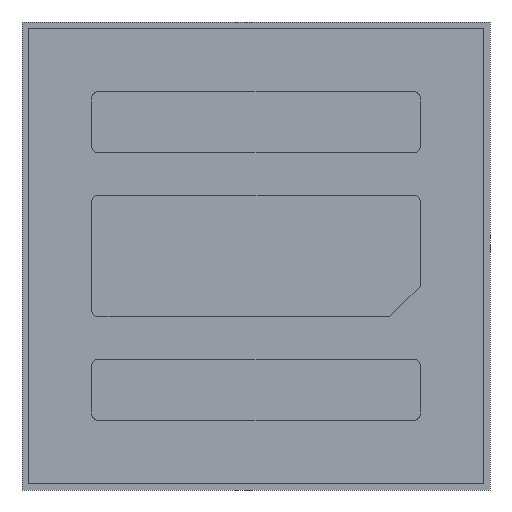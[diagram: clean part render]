
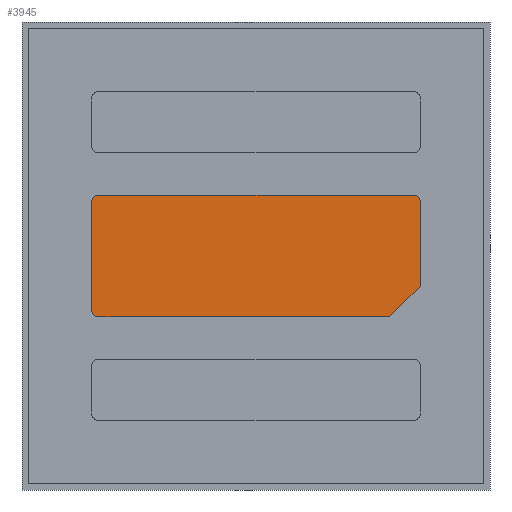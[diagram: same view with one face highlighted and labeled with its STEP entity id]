
A CAD part, front view. The second image highlights one B-rep face of the part: STEP entity #3945.
In plain terms, the highlighted planar face has unit normal (0, -1, 0).
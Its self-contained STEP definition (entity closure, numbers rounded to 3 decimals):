
#71 = DIRECTION ( 'NONE',  ( 1., 0., 0. ) ) ;
#286 = LINE ( 'NONE', #3185, #4097 ) ;
#345 = CARTESIAN_POINT ( 'NONE',  ( -1.3, 0., 0.45 ) ) ;
#493 = ORIENTED_EDGE ( 'NONE', *, *, #5848, .T. ) ;
#502 = VERTEX_POINT ( 'NONE', #2839 ) ;
#503 = ORIENTED_EDGE ( 'NONE', *, *, #5563, .T. ) ;
#580 = FACE_OUTER_BOUND ( 'NONE', #846, .T. ) ;
#776 = VECTOR ( 'NONE', #1021, 1000. ) ;
#839 = DIRECTION ( 'NONE',  ( 0., 0., 1. ) ) ;
#846 = EDGE_LOOP ( 'NONE', ( #5324, #2892, #2610, #3104, #2843, #4483, #503, #493 ) ) ;
#853 = LINE ( 'NONE', #5194, #5681 ) ;
#1021 = DIRECTION ( 'NONE',  ( 0.707, 0., 0.707 ) ) ;
#1387 = DIRECTION ( 'NONE',  ( 0., 1., 0. ) ) ;
#1416 = VERTEX_POINT ( 'NONE', #3305 ) ;
#1691 = CARTESIAN_POINT ( 'NONE',  ( 1.3, 0., 0.45 ) ) ;
#1720 = CARTESIAN_POINT ( 'NONE',  ( 1.35, 0., 0.45 ) ) ;
#1742 = CARTESIAN_POINT ( 'NONE',  ( -1.3, 0., -0.5 ) ) ;
#1776 = PLANE ( 'NONE',  #3413 ) ;
#1865 = CARTESIAN_POINT ( 'NONE',  ( 1.1, 0., -0.5 ) ) ;
#1956 = CARTESIAN_POINT ( 'NONE',  ( 1.3, 0., 0.45 ) ) ;
#2064 = CARTESIAN_POINT ( 'NONE',  ( 1.35, 0., -0.25 ) ) ;
#2159 = VECTOR ( 'NONE', #839, 1000. ) ;
#2188 = DIRECTION ( 'NONE',  ( 0., 0., -1. ) ) ;
#2352 = CARTESIAN_POINT ( 'NONE',  ( -1.35, 0., -0.45 ) ) ;
#2430 = DIRECTION ( 'NONE',  ( 0., -1., 0. ) ) ;
#2610 = ORIENTED_EDGE ( 'NONE', *, *, #3334, .T. ) ;
#2720 = DIRECTION ( 'NONE',  ( -1., 0., 0. ) ) ;
#2839 = CARTESIAN_POINT ( 'NONE',  ( 1.3, 0., 0.5 ) ) ;
#2843 = ORIENTED_EDGE ( 'NONE', *, *, #5122, .T. ) ;
#2892 = ORIENTED_EDGE ( 'NONE', *, *, #2984, .T. ) ;
#2913 = DIRECTION ( 'NONE',  ( 0., 0., 1. ) ) ;
#2984 = EDGE_CURVE ( 'NONE', #502, #5757, #5424, .T. ) ;
#3104 = ORIENTED_EDGE ( 'NONE', *, *, #4005, .T. ) ;
#3154 = CARTESIAN_POINT ( 'NONE',  ( -1.3, 0., 0.5 ) ) ;
#3185 = CARTESIAN_POINT ( 'NONE',  ( -1.35, 0., 0.45 ) ) ;
#3292 = VERTEX_POINT ( 'NONE', #2064 ) ;
#3305 = CARTESIAN_POINT ( 'NONE',  ( -1.35, 0., 0.45 ) ) ;
#3334 = EDGE_CURVE ( 'NONE', #5757, #1416, #3338, .T. ) ;
#3338 = CIRCLE ( 'NONE', #5840, 0.05 ) ;
#3344 = DIRECTION ( 'NONE',  ( 0., -1., 0. ) ) ;
#3413 = AXIS2_PLACEMENT_3D ( 'NONE', #1691, #1387, #4631 ) ;
#3945 = ADVANCED_FACE ( 'NONE', ( #580 ), #1776, .F. ) ;
#4005 = EDGE_CURVE ( 'NONE', #1416, #4712, #286, .T. ) ;
#4097 = VECTOR ( 'NONE', #4608, 1000. ) ;
#4294 = CARTESIAN_POINT ( 'NONE',  ( -1.3, 0., -0.45 ) ) ;
#4430 = AXIS2_PLACEMENT_3D ( 'NONE', #1956, #2430, #2913 ) ;
#4435 = VERTEX_POINT ( 'NONE', #1720 ) ;
#4483 = ORIENTED_EDGE ( 'NONE', *, *, #5507, .T. ) ;
#4554 = VECTOR ( 'NONE', #2720, 1000. ) ;
#4583 = CIRCLE ( 'NONE', #4430, 0.05 ) ;
#4587 = VERTEX_POINT ( 'NONE', #1742 ) ;
#4608 = DIRECTION ( 'NONE',  ( 0., 0., -1. ) ) ;
#4631 = DIRECTION ( 'NONE',  ( 0., 0., 1. ) ) ;
#4677 = CARTESIAN_POINT ( 'NONE',  ( 1.1, 0., -0.5 ) ) ;
#4712 = VERTEX_POINT ( 'NONE', #2352 ) ;
#4954 = CIRCLE ( 'NONE', #5149, 0.05 ) ;
#5122 = EDGE_CURVE ( 'NONE', #4712, #4587, #4954, .T. ) ;
#5149 = AXIS2_PLACEMENT_3D ( 'NONE', #4294, #3344, #5724 ) ;
#5194 = CARTESIAN_POINT ( 'NONE',  ( -1.3, 0., -0.5 ) ) ;
#5324 = ORIENTED_EDGE ( 'NONE', *, *, #5596, .T. ) ;
#5424 = LINE ( 'NONE', #3154, #4554 ) ;
#5461 = LINE ( 'NONE', #5989, #2159 ) ;
#5507 = EDGE_CURVE ( 'NONE', #4587, #5528, #853, .T. ) ;
#5528 = VERTEX_POINT ( 'NONE', #1865 ) ;
#5563 = EDGE_CURVE ( 'NONE', #5528, #3292, #6035, .T. ) ;
#5596 = EDGE_CURVE ( 'NONE', #4435, #502, #4583, .T. ) ;
#5633 = CARTESIAN_POINT ( 'NONE',  ( -1.3, 0., 0.5 ) ) ;
#5681 = VECTOR ( 'NONE', #71, 1000. ) ;
#5724 = DIRECTION ( 'NONE',  ( 0., 0., -1. ) ) ;
#5757 = VERTEX_POINT ( 'NONE', #5633 ) ;
#5840 = AXIS2_PLACEMENT_3D ( 'NONE', #345, #5935, #2188 ) ;
#5848 = EDGE_CURVE ( 'NONE', #3292, #4435, #5461, .T. ) ;
#5935 = DIRECTION ( 'NONE',  ( 0., -1., 0. ) ) ;
#5989 = CARTESIAN_POINT ( 'NONE',  ( 1.35, 0., 0.45 ) ) ;
#6035 = LINE ( 'NONE', #4677, #776 ) ;
